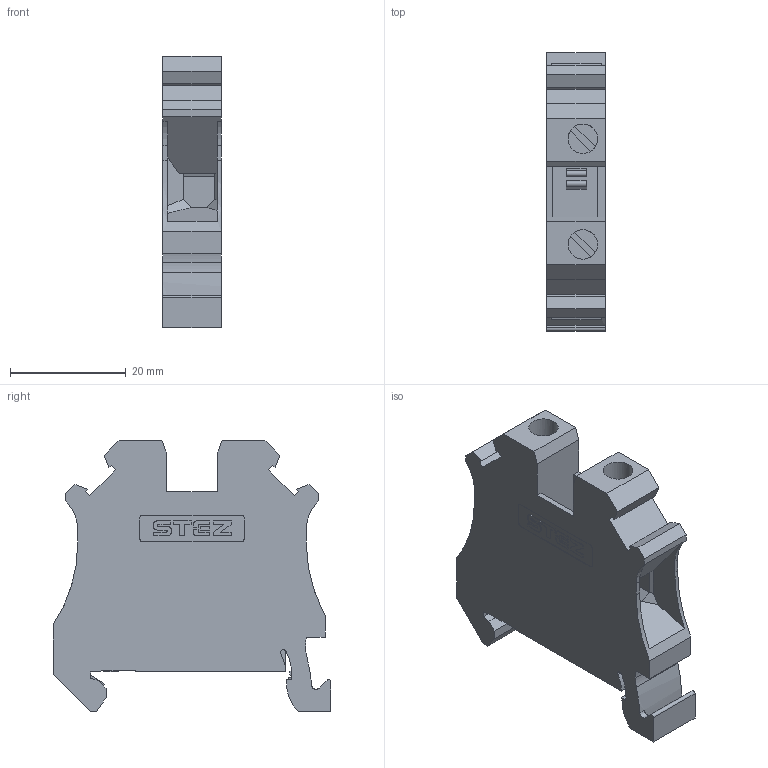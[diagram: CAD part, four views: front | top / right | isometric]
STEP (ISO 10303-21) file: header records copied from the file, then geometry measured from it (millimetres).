
FILE_DESCRIPTION(('TFLEX Exchange Step'),'2;1');
FILE_NAME('11000032_KHB_10-2-PE.stp', '2023-10-03T11:15:05+03:00',('apanin'),('Unknown organisation'),'TFLEX Exchange 2023.0','T-FLEX CAD','Unknown authorisation');
FILE_SCHEMA( ('AUTOMOTIVE_DESIGN { 1 0 10303 214 1 1 1 1 }') );
Length unit declared in the file: millimetre
Products named in the file (1): Тело_1:1
Bounding box: 10.15 x 48 x 46.85 mm (x, y, z)
Volume: 13386.1 mm3; surface area: 6958.9 mm2
Topology: 1 solids, 1 shells, 386 faces, 1132 edges, 759 vertices
Faces by surface type: plane 197, cylinder 188, bspline 1
Full cylindrical faces by diameter (mm): 5.1 x2
Entity records: 13063 total; most frequent: CARTESIAN_POINT 2322, DIRECTION 2273, ORIENTED_EDGE 2264, EDGE_CURVE 1132, AXIS2_PLACEMENT_3D 785, VERTEX_POINT 759, VECTOR 703, LINE 703
